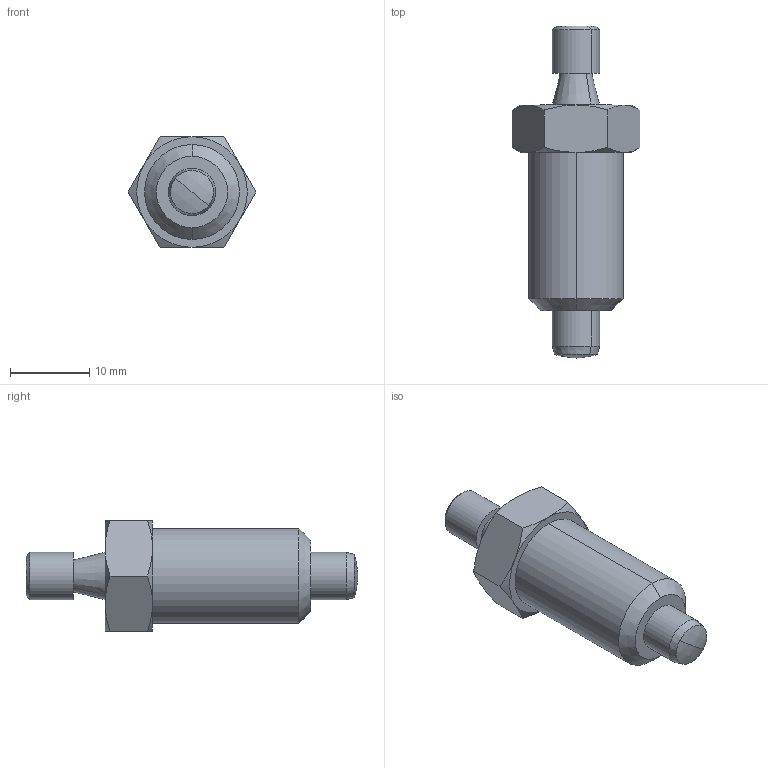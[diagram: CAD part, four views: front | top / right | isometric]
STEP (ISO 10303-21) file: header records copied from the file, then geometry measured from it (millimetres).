
FILE_DESCRIPTION (( 'STEP AP203' ), '1' );
FILE_NAME ('32700.W0026.step', '2011-03-28T11:59:30', ( 'Wixroyd' ), ( 'Wixroyd' ), 'SwSTEP 2.0', 'SolidWorks 2009', '' );
FILE_SCHEMA (( 'CONFIG_CONTROL_DESIGN' ));
Length unit declared in the file: millimetre
Products named in the file (4): 32700.W0026; Part1_3270.W026; Part2_3270.W026; Part4_3270.W026
Assembly tree (3 placements, depth 2):
  32700.W0026
    Part4_3270.W026
    Part1_3270.W026
    Part2_3270.W026
Bounding box: 16.17 x 42 x 14 mm (x, y, z)
Volume: 2961.2 mm3; surface area: 2983.4 mm2
Topology: 3 solids, 3 shells, 149 faces, 392 edges, 255 vertices
Faces by surface type: plane 107, cylinder 20, cone 20, sphere 2
Entity records: 5116 total; most frequent: CARTESIAN_POINT 946, DIRECTION 802, ORIENTED_EDGE 784, EDGE_CURVE 392, AXIS2_PLACEMENT_3D 279, VERTEX_POINT 255, LINE 244, VECTOR 244
